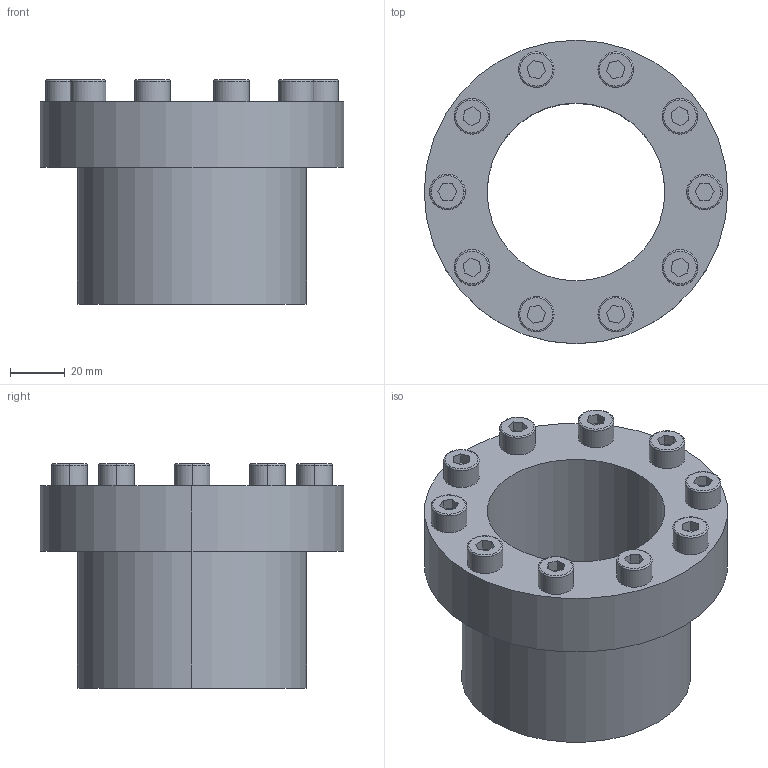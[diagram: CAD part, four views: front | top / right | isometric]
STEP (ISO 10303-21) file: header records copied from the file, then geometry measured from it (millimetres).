
FILE_DESCRIPTION (( 'STEP AP203' ), '1' );
FILE_NAME ('PL-C 65-84.STEP', '2021-10-22T08:46:01', ( '' ), ( '' ), 'SwSTEP 2.0', 'SolidWorks 2018', '' );
FILE_SCHEMA (( 'CONFIG_CONTROL_DESIGN' ));
Length unit declared in the file: millimetre
Products named in the file (1): PL-C 65-84
Bounding box: 111 x 111 x 82 mm (x, y, z)
Volume: 271811.2 mm3; surface area: 53370.6 mm2
Topology: 1 solids, 1 shells, 129 faces, 298 edges, 192 vertices
Faces by surface type: plane 83, cylinder 26, torus 20
Entity records: 3725 total; most frequent: DIRECTION 650, CARTESIAN_POINT 620, ORIENTED_EDGE 596, EDGE_CURVE 298, AXIS2_PLACEMENT_3D 222, LINE 206, VECTOR 206, VERTEX_POINT 192
